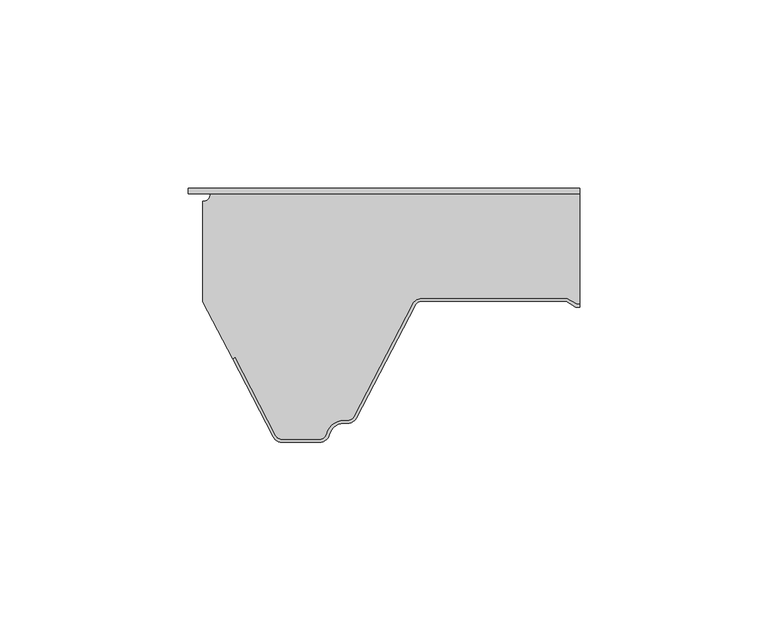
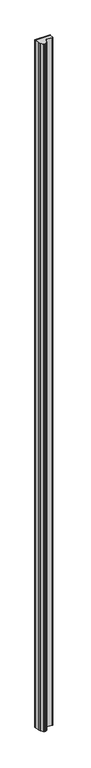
"""IFC4 building model written with IfcOpenShell, lengths in millimetres: plate geometry, Paneles-Sándwich-Madera_PALDR-AC_Curtain-Panel : PALDR AC 30/15."""

from ifc_helpers import new_model, si_unit, frame, origin, origin_with_axes, place, context, project, spatial, polyline, circle_curve, outline, extrude, source, transform, mapped, element, save
from ifc_brep_helpers import plane_surface, cylinder_surface, revolved_surface, advanced_brep


def plate_78044e65(model_context):
    return source(origin(), model_context, "Body", "SolidModel", [
        extrude(outline(polyline([(-53.88, -1.5), (-53.88, 0.0), (50.0, 0.0), (50.0, -1.5), (-53.88, -1.5)])), origin_with_axes(), (0.0, 0.0, 1.0), 5000.0),
        advanced_brep(
        [(-30.6207387, -65.6314818, 0.0), (-41.4414179, -44.855778, 0.0), (-42.1509492, -45.2253256, 0.0), (-50.0, -30.1551481, 0.0), (-50.0, -3.45, 0.0), (-48.05, -1.5, 0.0), (50.0, -1.5, 0.0), (50.0, -30.7, 0.0), (49.2107961, -30.7, 0.0), (46.6127185, -29.2, 0.0), (8.090871, -29.2, 0.0), (5.6075115, -30.7065836, 0.0), (-9.9783733, -60.6314825, 0.0), (-11.574819, -61.6, 0.0), (-12.6272901, -61.6, 0.0), (-17.2841077, -65.2363636, 0.0), (-19.030414, -66.5999997, 0.0), (-29.024293, -66.5999997, 0.0), (-30.6207383, -65.6314813, 5000.0), (-29.024293, -66.5999997, 5000.0), (-19.030414, -66.5999997, 5000.0), (-17.2841077, -65.2363636, 5000.0), (-12.6272901, -61.6, 5000.0), (-11.574819, -61.6, 5000.0), (-9.9783737, -60.631482, 5000.0), (5.6075107, -30.7065835, 5000.0), (8.090871, -29.2, 5000.0), (46.6127185, -29.2, 5000.0), (49.2107961, -30.7, 5000.0), (50.0, -30.7, 5000.0), (50.0, -1.5, 5000.0), (-48.05, -1.5, 5000.0), (-50.0, -3.45, 5000.0), (-50.0, -30.1551481, 5000.0), (-42.1509492, -45.2253256, 5000.0), (-41.4414179, -44.855778, 5000.0)],
        [
            (0, 1),
            (1, 2),
            (2, 3),
            (3, 4),
            (4, 5, circle_curve(frame((-50.0, -1.5, 0.0), z_axis=(0.0, 0.0, 1.0), x_axis=(-1.0, 0.0, 0.0)), 1.95)),
            (5, 6),
            (6, 7),
            (7, 8),
            (8, 9),
            (9, 10),
            (10, 11, circle_curve(frame((8.090871, -32.0, 0.0), z_axis=(0.0, 0.0, 1.0), x_axis=(-1.0, 0.0, 0.0)), 2.8)),
            (11, 12),
            (12, 13, circle_curve(frame((-11.574819, -59.8, 0.0), z_axis=(0.0, 0.0, -1.0), x_axis=(-1.0, 0.0, 0.0)), 1.8)),
            (13, 14),
            (14, 15, circle_curve(frame((-12.6272901, -66.4, 0.0), z_axis=(0.0, 0.0, 1.0), x_axis=(-1.0, 0.0, 0.0)), 4.8)),
            (15, 16, circle_curve(frame((-19.030414, -64.8, 0.0), z_axis=(0.0, 0.0, -1.0), x_axis=(-1.0, 0.0, 0.0)), 1.7999997)),
            (16, 17),
            (17, 0, circle_curve(frame((-29.024293, -64.8, 0.0), z_axis=(0.0, 0.0, -1.0), x_axis=(-1.0, 0.0, 0.0)), 1.7999997)),
            (18, 19, circle_curve(frame((-29.024293, -64.8, 5000.0), z_axis=(0.0, 0.0, 1.0), x_axis=(-1.0, 0.0, 0.0)), 1.7999997)),
            (19, 20),
            (20, 21, circle_curve(frame((-19.030414, -64.8, 5000.0), z_axis=(0.0, 0.0, 1.0), x_axis=(-1.0, 0.0, 0.0)), 1.7999997)),
            (21, 22, circle_curve(frame((-12.6272901, -66.4, 5000.0), z_axis=(0.0, 0.0, -1.0), x_axis=(-1.0, 0.0, 0.0)), 4.8)),
            (22, 23),
            (23, 24, circle_curve(frame((-11.574819, -59.8, 5000.0), z_axis=(0.0, 0.0, 1.0), x_axis=(-1.0, 0.0, 0.0)), 1.8)),
            (24, 25),
            (25, 26, circle_curve(frame((8.090871, -32.0, 5000.0), z_axis=(0.0, 0.0, -1.0), x_axis=(-1.0, 0.0, 0.0)), 2.8)),
            (26, 27),
            (27, 28),
            (28, 29),
            (29, 30),
            (30, 31),
            (31, 32, circle_curve(frame((-50.0, -1.5, 5000.0), z_axis=(0.0, 0.0, -1.0), x_axis=(-1.0, 0.0, 0.0)), 1.95)),
            (32, 33),
            (33, 34),
            (34, 35),
            (35, 18),
            (0, 18),
            (35, 1),
            (34, 2),
            (33, 3),
            (32, 4),
            (5, 31),
            (30, 6),
            (28, 8),
            (7, 29),
            (27, 9),
            (26, 10),
            (25, 11),
            (24, 12),
            (23, 13),
            (22, 14),
            (21, 15),
            (20, 16),
            (19, 17),
        ],
        [
            plane_surface(frame((-50.0, 0.0, 0.0), z_axis=(0.0, 0.0, -1.0), x_axis=(0.0, 1.0, 0.0))),
            plane_surface(frame((-50.0, 0.0, 5000.0), z_axis=(0.0, 0.0, 1.0), x_axis=(0.0, 1.0, 0.0))),
            plane_surface(frame((-30.6207387, -65.6314818, 0.0), z_axis=(-0.8869140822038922, -0.46193442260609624, 0.0), x_axis=(0.0, 0.0, 1.0))),
            plane_surface(frame((-41.4414179, -44.855778, 0.0), z_axis=(0.4619344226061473, -0.8869140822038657, 0.0), x_axis=(0.0, 0.0, 1.0))),
            plane_surface(frame((-42.1509492, -45.2253256, 0.0), z_axis=(-0.8869140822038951, -0.46193442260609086, 0.0), x_axis=(0.0, 0.0, 1.0))),
            plane_surface(frame((-50.0, -30.1551481, 0.0), z_axis=(-1.0, 0.0, 0.0), x_axis=(0.0, 0.0, 1.0))),
            plane_surface(frame((-48.05, -1.5, 0.0), z_axis=(0.0, 1.0, 0.0), x_axis=(0.0, 0.0, 1.0))),
            plane_surface(frame((81.5859248, -30.7, 0.0), z_axis=(0.0, -1.0, 0.0), x_axis=(0.0, 0.0, 1.0))),
            plane_surface(frame((49.2107961, -30.7, 0.0), z_axis=(-0.49999979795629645, -0.8660255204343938, 0.0), x_axis=(0.0, 0.0, 1.0))),
            plane_surface(frame((46.6127185, -29.2, 0.0), z_axis=(0.0, -1.0, 0.0), x_axis=(0.0, 0.0, 1.0))),
            revolved_surface(polyline([(5.290871, -32.0, 5000.0), (5.290871, -32.0, 0.0)]), (8.090871, -32.0, 0.0), (0.0, 0.0, 1.0)),
            plane_surface(frame((5.6075107, -30.7065835, 0.0), z_axis=(0.8869140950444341, -0.4619343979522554, 0.0), x_axis=(0.0, 0.0, 1.0))),
            cylinder_surface(frame((-11.574819, -59.8, 0.0), z_axis=(0.0, 0.0, -1.0), x_axis=(-1.0, 0.0, 0.0)), 1.8),
            plane_surface(frame((-11.574819, -61.6, 0.0), z_axis=(0.0, -1.0, 0.0), x_axis=(0.0, 0.0, 1.0))),
            revolved_surface(polyline([(-17.4272901, -66.4, 5000.0), (-17.4272901, -66.4, 0.0)]), (-12.6272901, -66.4, 0.0), (0.0, 0.0, 1.0)),
            cylinder_surface(frame((-19.030414, -64.8, 0.0), z_axis=(0.0, 0.0, -1.0), x_axis=(-1.0, 0.0, 0.0)), 1.7999997),
            plane_surface(frame((-19.030414, -66.5999997, 0.0), z_axis=(0.0, -1.0, 0.0), x_axis=(0.0, 0.0, 1.0))),
            cylinder_surface(frame((-29.024293, -64.8, 0.0), z_axis=(0.0, 0.0, -1.0), x_axis=(-1.0, 0.0, 0.0)), 1.7999997),
            revolved_surface(polyline([(-51.95, -1.5, 5000.0), (-51.95, -1.5, 0.0)]), (-50.0, -1.5, 0.0), (0.0, 0.0, 1.0)),
            plane_surface(frame((50.0, 0.0, 5000.0), z_axis=(1.0, 0.0, 0.0), x_axis=(0.0, 0.0, -1.0))),
        ],
        [
            (0, [[1, 2, 3, 4, 5, 6, 7, 8, 9, 10, 11, 12, 13, 14, 15, 16, 17, 18]]),
            (1, [[19, 20, 21, 22, 23, 24, 25, 26, 27, 28, 29, 30, 31, 32, 33, 34, 35, 36]]),
            (2, [[-1, 37, -36, 38]]),
            (3, [[-2, -38, -35, 39]]),
            (4, [[-3, -39, -34, 40]]),
            (5, [[-4, -40, -33, 41]]),
            (6, [[42, -31, 43, -6]]),
            (7, [[44, -8, 45, -29]]),
            (8, [[-9, -44, -28, 46]]),
            (9, [[-10, -46, -27, 47]]),
            (10, [[-11, -47, -26, 48]]),
            (11, [[-12, -48, -25, 49]]),
            (12, [[-13, -49, -24, 50]]),
            (13, [[-14, -50, -23, 51]]),
            (14, [[-15, -51, -22, 52]]),
            (15, [[-16, -52, -21, 53]]),
            (16, [[-17, -53, -20, 54]]),
            (17, [[-18, -54, -19, -37]]),
            (18, [[-5, -41, -32, -42]]),
            (19, [[-7, -43, -30, -45]]),
        ],
    ),
        advanced_brep(
        [(49.2107962, -30.7, 5000.0), (46.6127186, -29.2, 5000.0), (8.090871, -29.2, 5000.0), (5.6075116, -30.7065836, 5000.0), (-9.9783733, -60.6314825, 5000.0), (-11.574819, -61.6, 5000.0), (-12.62729, -61.6, 5000.0), (-17.2841076, -65.2363636, 5000.0), (-19.030414, -66.6, 5000.0), (-29.024293, -66.6, 5000.0), (-30.6207383, -65.631482, 5000.0), (-41.4404688, -44.8576004, 5000.0), (-42.15, -45.227148, 5000.0), (-31.33027, -66.00103, 5000.0), (-29.024293, -67.4, 5000.0), (-19.030414, -67.4, 5000.0), (-16.5079711, -65.4303031, 5000.0), (-12.62729, -62.4, 5000.0), (-11.574819, -62.4, 5000.0), (-9.2688424, -61.0010295, 5000.0), (6.317042, -31.076131, 5000.0), (8.090871, -30.0, 5000.0), (46.3983593, -30.0, 5000.0), (48.9964369, -31.5, 5000.0), (50.0, -31.5, 5000.0), (50.0, -30.7, 5000.0), (48.9964369, -31.5, 0.0), (46.3983593, -30.0, 0.0), (8.090871, -30.0, 0.0), (6.3170428, -31.0761312, 0.0), (-9.268842, -61.00103, 0.0), (-11.574819, -62.4, 0.0), (-12.62729, -62.4, 0.0), (-16.5079713, -65.430303, 0.0), (-19.030414, -67.4, 0.0), (-29.024293, -67.4, 0.0), (-31.3302696, -66.0010295, 0.0), (-42.15, -45.227148, 0.0), (-41.4404688, -44.8576004, 0.0), (-30.6207387, -65.6314825, 0.0), (-29.024293, -66.6, 0.0), (-19.030414, -66.6, 0.0), (-17.2841074, -65.2363637, 0.0), (-12.62729, -61.6, 0.0), (-11.574819, -61.6, 0.0), (-9.9783737, -60.631482, 0.0), (5.6075107, -30.7065835, 0.0), (8.090871, -29.2, 0.0), (46.6127186, -29.2, 0.0), (49.2107962, -30.7, 0.0), (50.0, -30.7, 0.0), (50.0, -31.5, 0.0)],
        [
            (0, 1),
            (1, 2),
            (2, 3, circle_curve(frame((8.090871, -32.0, 5000.0), z_axis=(0.0, 0.0, 1.0), x_axis=(1.0, 0.0, 0.0)), 2.8)),
            (3, 4),
            (4, 5, circle_curve(frame((-11.574819, -59.8, 5000.0), z_axis=(0.0, 0.0, -1.0), x_axis=(1.0, 0.0, 0.0)), 1.8)),
            (5, 6),
            (6, 7, circle_curve(frame((-12.62729, -66.4, 5000.0), z_axis=(0.0, 0.0, 1.0), x_axis=(1.0, 0.0, 0.0)), 4.8)),
            (7, 8, circle_curve(frame((-19.030414, -64.8, 5000.0), z_axis=(0.0, 0.0, -1.0), x_axis=(1.0, 0.0, 0.0)), 1.8)),
            (8, 9),
            (9, 10, circle_curve(frame((-29.024293, -64.8, 5000.0), z_axis=(0.0, 0.0, -1.0), x_axis=(1.0, 0.0, 0.0)), 1.8)),
            (10, 11),
            (11, 12),
            (12, 13),
            (13, 14, circle_curve(frame((-29.024293, -64.8, 5000.0), z_axis=(0.0, 0.0, 1.0), x_axis=(1.0, 0.0, 0.0)), 2.6)),
            (14, 15),
            (15, 16, circle_curve(frame((-19.030414, -64.8, 5000.0), z_axis=(0.0, 0.0, 1.0), x_axis=(1.0, 0.0, 0.0)), 2.6)),
            (16, 17, circle_curve(frame((-12.62729, -66.4, 5000.0), z_axis=(0.0, 0.0, -1.0), x_axis=(1.0, 0.0, 0.0)), 4.0)),
            (17, 18),
            (18, 19, circle_curve(frame((-11.574819, -59.8, 5000.0), z_axis=(0.0, 0.0, 1.0), x_axis=(1.0, 0.0, 0.0)), 2.6)),
            (19, 20),
            (20, 21, circle_curve(frame((8.090871, -32.0, 5000.0), z_axis=(0.0, 0.0, -1.0), x_axis=(1.0, 0.0, 0.0)), 2.0)),
            (21, 22),
            (22, 23),
            (23, 24),
            (24, 25),
            (25, 0),
            (26, 27),
            (27, 28),
            (28, 29, circle_curve(frame((8.090871, -32.0, 0.0), z_axis=(0.0, 0.0, 1.0), x_axis=(1.0, 0.0, 0.0)), 2.0)),
            (29, 30),
            (30, 31, circle_curve(frame((-11.574819, -59.8, 0.0), z_axis=(0.0, 0.0, -1.0), x_axis=(1.0, 0.0, 0.0)), 2.6)),
            (31, 32),
            (32, 33, circle_curve(frame((-12.62729, -66.4, 0.0), z_axis=(0.0, 0.0, 1.0), x_axis=(1.0, 0.0, 0.0)), 4.0)),
            (33, 34, circle_curve(frame((-19.030414, -64.8, 0.0), z_axis=(0.0, 0.0, -1.0), x_axis=(1.0, 0.0, 0.0)), 2.6)),
            (34, 35),
            (35, 36, circle_curve(frame((-29.024293, -64.8, 0.0), z_axis=(0.0, 0.0, -1.0), x_axis=(1.0, 0.0, 0.0)), 2.6)),
            (36, 37),
            (37, 38),
            (38, 39),
            (39, 40, circle_curve(frame((-29.024293, -64.8, 0.0), z_axis=(0.0, 0.0, 1.0), x_axis=(1.0, 0.0, 0.0)), 1.8)),
            (40, 41),
            (41, 42, circle_curve(frame((-19.030414, -64.8, 0.0), z_axis=(0.0, 0.0, 1.0), x_axis=(1.0, 0.0, 0.0)), 1.8)),
            (42, 43, circle_curve(frame((-12.62729, -66.4, 0.0), z_axis=(0.0, 0.0, -1.0), x_axis=(1.0, 0.0, 0.0)), 4.8)),
            (43, 44),
            (44, 45, circle_curve(frame((-11.574819, -59.8, 0.0), z_axis=(0.0, 0.0, 1.0), x_axis=(1.0, 0.0, 0.0)), 1.8)),
            (45, 46),
            (46, 47, circle_curve(frame((8.090871, -32.0, 0.0), z_axis=(0.0, 0.0, -1.0), x_axis=(1.0, 0.0, 0.0)), 2.8)),
            (47, 48),
            (48, 49),
            (49, 50),
            (50, 51),
            (51, 26),
            (49, 0),
            (25, 50),
            (48, 1),
            (47, 2),
            (46, 3),
            (45, 4),
            (44, 5),
            (43, 6),
            (42, 7),
            (41, 8),
            (40, 9),
            (39, 10),
            (38, 11),
            (37, 12),
            (36, 13),
            (35, 14),
            (34, 15),
            (33, 16),
            (32, 17),
            (31, 18),
            (30, 19),
            (29, 20),
            (28, 21),
            (27, 22),
            (26, 23),
            (51, 24),
        ],
        [
            plane_surface(frame((-50.0, -30.0, 5000.0), z_axis=(0.0, 0.0, 1.0), x_axis=(0.0, 1.0, 0.0))),
            plane_surface(frame((-50.0, -30.0, 0.0), z_axis=(0.0, 0.0, -1.0), x_axis=(0.0, 1.0, 0.0))),
            plane_surface(frame((81.5859248, -30.7, 5000.0), z_axis=(0.0, 1.0, 0.0), x_axis=(0.0, 0.0, -1.0))),
            plane_surface(frame((49.2107962, -30.7, 5000.0), z_axis=(0.4999997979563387, 0.8660255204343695, 0.0), x_axis=(0.0, 0.0, -1.0))),
            plane_surface(frame((46.6127186, -29.2, 5000.0), z_axis=(0.0, 1.0, 0.0), x_axis=(0.0, 0.0, -1.0))),
            cylinder_surface(frame((8.090871, -32.0, 5000.0), z_axis=(0.0, 0.0, 1.0), x_axis=(1.0, 0.0, 0.0)), 2.8),
            plane_surface(frame((5.6075107, -30.7065835, 5000.0), z_axis=(-0.8869140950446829, 0.4619343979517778, 0.0), x_axis=(0.0, 0.0, -1.0))),
            revolved_surface(polyline([(-9.774818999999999, -59.8, 0.0), (-9.774818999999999, -59.8, 5000.0)]), (-11.574819, -59.8, 5000.0), (0.0, 0.0, -1.0)),
            plane_surface(frame((-11.574819, -61.6, 5000.0), z_axis=(0.0, 1.0, 0.0), x_axis=(0.0, 0.0, -1.0))),
            cylinder_surface(frame((-12.62729, -66.4, 5000.0), z_axis=(0.0, 0.0, 1.0), x_axis=(1.0, 0.0, 0.0)), 4.8),
            revolved_surface(polyline([(-17.230414, -64.8, 0.0), (-17.230414, -64.8, 5000.0)]), (-19.030414, -64.8, 5000.0), (0.0, 0.0, -1.0)),
            plane_surface(frame((-19.030414, -66.6, 5000.0), z_axis=(0.0, 1.0, 0.0), x_axis=(0.0, 0.0, -1.0))),
            revolved_surface(polyline([(-27.224293, -64.8, 0.0), (-27.224293, -64.8, 5000.0)]), (-29.024293, -64.8, 5000.0), (0.0, 0.0, -1.0)),
            plane_surface(frame((-30.6207387, -65.6314825, 5000.0), z_axis=(0.8869140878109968, 0.46193441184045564, 0.0), x_axis=(0.0, 0.0, -1.0))),
            plane_surface(frame((-41.4404688, -44.8576004, 5000.0), z_axis=(-0.46193450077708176, 0.8869140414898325, 0.0), x_axis=(0.0, 0.0, -1.0))),
            plane_surface(frame((-42.15, -45.227148, 5000.0), z_axis=(-0.8869140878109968, -0.46193441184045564, 0.0), x_axis=(0.0, 0.0, -1.0))),
            cylinder_surface(frame((-29.024293, -64.8, 5000.0), z_axis=(0.0, 0.0, 1.0), x_axis=(1.0, 0.0, 0.0)), 2.6),
            plane_surface(frame((-29.024293, -67.4, 5000.0), z_axis=(0.0, -1.0, 0.0), x_axis=(0.0, 0.0, -1.0))),
            cylinder_surface(frame((-19.030414, -64.8, 5000.0), z_axis=(0.0, 0.0, 1.0), x_axis=(1.0, 0.0, 0.0)), 2.6),
            revolved_surface(polyline([(-8.62729, -66.4, 0.0), (-8.62729, -66.4, 5000.0)]), (-12.62729, -66.4, 5000.0), (0.0, 0.0, -1.0)),
            plane_surface(frame((-12.62729, -62.4, 5000.0), z_axis=(0.0, -1.0, 0.0), x_axis=(0.0, 0.0, -1.0))),
            cylinder_surface(frame((-11.574819, -59.8, 5000.0), z_axis=(0.0, 0.0, 1.0), x_axis=(1.0, 0.0, 0.0)), 2.6),
            plane_surface(frame((-9.268842, -61.00103, 5000.0), z_axis=(0.8869140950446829, -0.4619343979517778, 0.0), x_axis=(0.0, 0.0, -1.0))),
            revolved_surface(polyline([(10.090871, -32.0, 0.0), (10.090871, -32.0, 5000.0)]), (8.090871, -32.0, 5000.0), (0.0, 0.0, -1.0)),
            plane_surface(frame((8.090871, -30.0, 5000.0), z_axis=(0.0, -1.0, 0.0), x_axis=(0.0, 0.0, -1.0))),
            plane_surface(frame((46.3983593, -30.0, 5000.0), z_axis=(-0.4999997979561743, -0.8660255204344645, 0.0), x_axis=(0.0, 0.0, -1.0))),
            plane_surface(frame((48.9964369, -31.5, 5000.0), z_axis=(0.0, -1.0, 0.0), x_axis=(0.0, 0.0, -1.0))),
            plane_surface(frame((50.0, 0.0, 5000.0), z_axis=(1.0, 0.0, 0.0), x_axis=(0.0, 0.0, -1.0))),
        ],
        [
            (0, [[1, 2, 3, 4, 5, 6, 7, 8, 9, 10, 11, 12, 13, 14, 15, 16, 17, 18, 19, 20, 21, 22, 23, 24, 25, 26]]),
            (1, [[27, 28, 29, 30, 31, 32, 33, 34, 35, 36, 37, 38, 39, 40, 41, 42, 43, 44, 45, 46, 47, 48, 49, 50, 51, 52]]),
            (2, [[53, -26, 54, -50]]),
            (3, [[-1, -53, -49, 55]]),
            (4, [[-2, -55, -48, 56]]),
            (5, [[-3, -56, -47, 57]]),
            (6, [[-4, -57, -46, 58]]),
            (7, [[-5, -58, -45, 59]]),
            (8, [[-6, -59, -44, 60]]),
            (9, [[-7, -60, -43, 61]]),
            (10, [[-8, -61, -42, 62]]),
            (11, [[-9, -62, -41, 63]]),
            (12, [[-10, -63, -40, 64]]),
            (13, [[-11, -64, -39, 65]]),
            (14, [[-12, -65, -38, 66]]),
            (15, [[-13, -66, -37, 67]]),
            (16, [[-14, -67, -36, 68]]),
            (17, [[-15, -68, -35, 69]]),
            (18, [[-16, -69, -34, 70]]),
            (19, [[-17, -70, -33, 71]]),
            (20, [[-18, -71, -32, 72]]),
            (21, [[-19, -72, -31, 73]]),
            (22, [[-20, -73, -30, 74]]),
            (23, [[-21, -74, -29, 75]]),
            (24, [[-22, -75, -28, 76]]),
            (25, [[-23, -76, -27, 77]]),
            (26, [[-77, -52, 78, -24]]),
            (27, [[-25, -78, -51, -54]]),
        ],
    ),
    ])


if __name__ == "__main__":
    model = new_model("IFC4")
    model_context = context("Model", 3, world=origin())
    ifc_project = project(units=[si_unit("LENGTHUNIT", "METRE", prefix="MILLI")], contexts=[model_context])
    site = spatial("IfcSite", under=ifc_project)
    building = spatial("IfcBuilding", under=site)
    placement = place(None, origin())
    plate_shape = plate_78044e65(model_context)
    element("IfcPlate", 1, ObjectType="Paneles-Sándwich-Madera_PALDR-AC_Curtain-Panel : PALDR AC 30/15", at=placement, inside=building, context=model_context, shape_type="MappedRepresentation", body=[
        mapped(plate_shape, transform((0.0, 0.0, 0.0), x_axis=(1.0, 0.0, 0.0), y_axis=(0.0, 1.0, 0.0), z_axis=(0.0, 0.0, 1.0))),
    ])
    save(model, "model.ifc")
